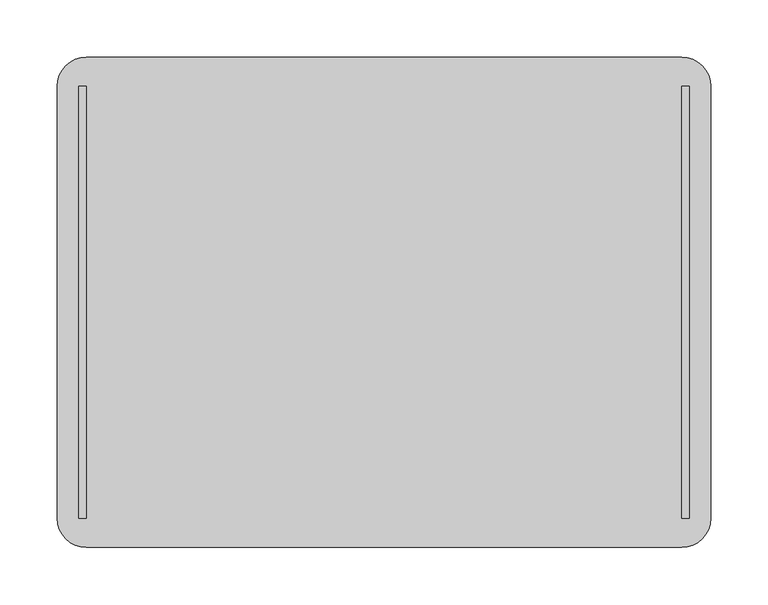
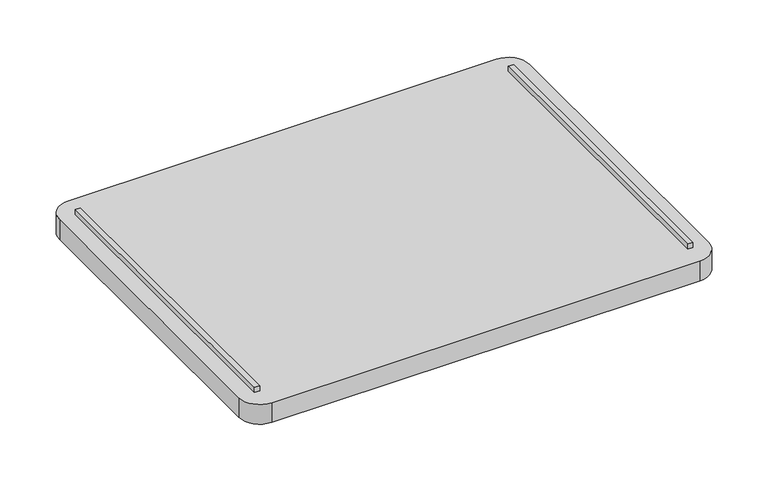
"""IFC4 building model written with IfcOpenShell, lengths in millimetres: furniture geometry."""

from ifc_helpers import new_model, si_unit, point, frame, frame_2d, origin, place, context, project, spatial, polyline, circle_curve, trimmed, segment, composite_curve, outline, extrude, source, transform, mapped, element, save


def furniture_bd21e539(model_context):
    return source(origin(), model_context, "Body", "SweptSolid", [
        extrude(outline(polyline([(-260.35, -188.9125), (-266.7, -188.9125), (-266.7, 188.9125), (-260.35, 188.9125), (-260.35, -188.9125)])), frame((0.0, 0.0, 846.1502), z_axis=(0.0, 0.0, 1.0), x_axis=(1.0, 0.0, 0.0)), (0.0, 0.0, 1.0), 6.35),
        extrude(outline(polyline([(266.7, -188.9125), (260.35, -188.9125), (260.35, 188.9125), (266.7, 188.9125), (266.7, -188.9125)])), frame((0.0, 0.0, 846.1502), z_axis=(0.0, 0.0, 1.0), x_axis=(1.0, 0.0, 0.0)), (0.0, 0.0, 1.0), 6.35),
        extrude(outline(composite_curve([segment(trimmed(circle_curve(frame_2d((260.35, 188.9125)), 25.4), [point((260.35, 214.3125))], [point((285.75, 188.9125))], False, "CARTESIAN"), True, "CONTINUOUS"), segment(polyline([(285.75, 188.9125), (285.75, -188.9125)]), True, "CONTINUOUS"), segment(trimmed(circle_curve(frame_2d((260.35, -188.9125)), 25.4), [point((285.75, -188.9125))], [point((260.35, -214.3125))], False, "CARTESIAN"), True, "CONTINUOUS"), segment(polyline([(260.35, -214.3125), (-260.35, -214.3125)]), True, "CONTINUOUS"), segment(trimmed(circle_curve(frame_2d((-260.35, -188.9125)), 25.4), [point((-260.35, -214.3125))], [point((-285.75, -188.9125))], False, "CARTESIAN"), True, "CONTINUOUS"), segment(polyline([(-285.75, -188.9125), (-285.75, 188.9125)]), True, "CONTINUOUS"), segment(trimmed(circle_curve(frame_2d((-260.35, 188.9125)), 25.4), [point((-285.75, 188.9125))], [point((-260.35, 214.3125))], False, "CARTESIAN"), True, "CONTINUOUS"), segment(polyline([(-260.35, 214.3125), (260.35, 214.3125)]), True, "CONTINUOUS")], self_intersect=False)), frame((0.0, 0.0, 820.7502), z_axis=(0.0, 0.0, 1.0), x_axis=(1.0, 0.0, 0.0)), (0.0, 0.0, 1.0), 25.4),
    ])


if __name__ == "__main__":
    model = new_model("IFC4")
    model_context = context("Model", 3, world=origin())
    ifc_project = project(units=[si_unit("LENGTHUNIT", "METRE", prefix="MILLI")], contexts=[model_context])
    site = spatial("IfcSite", under=ifc_project)
    building = spatial("IfcBuilding", under=site)
    placement = place(None, origin())
    furniture_shape = furniture_bd21e539(model_context)
    element("IfcFurniture", 1, ObjectType="HermanMiller_CoStruc_CO201_CLid : 16\"D x 22\"W", at=placement, inside=building, context=model_context, shape_type="MappedRepresentation", body=[
        mapped(furniture_shape, transform((0.0, 0.0, 0.0), x_axis=(1.0, 0.0, 0.0), y_axis=(0.0, 1.0, 0.0), z_axis=(0.0, 0.0, 1.0))),
    ])
    save(model, "model.ifc")
